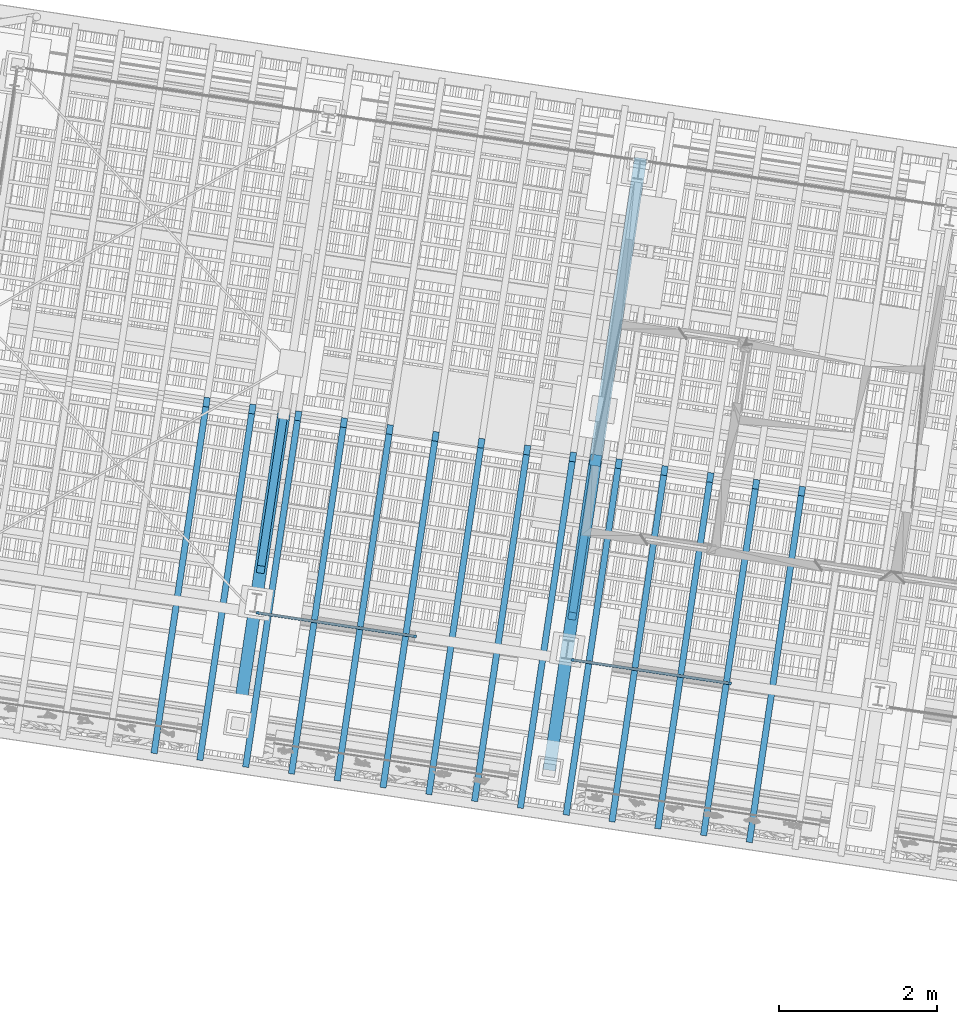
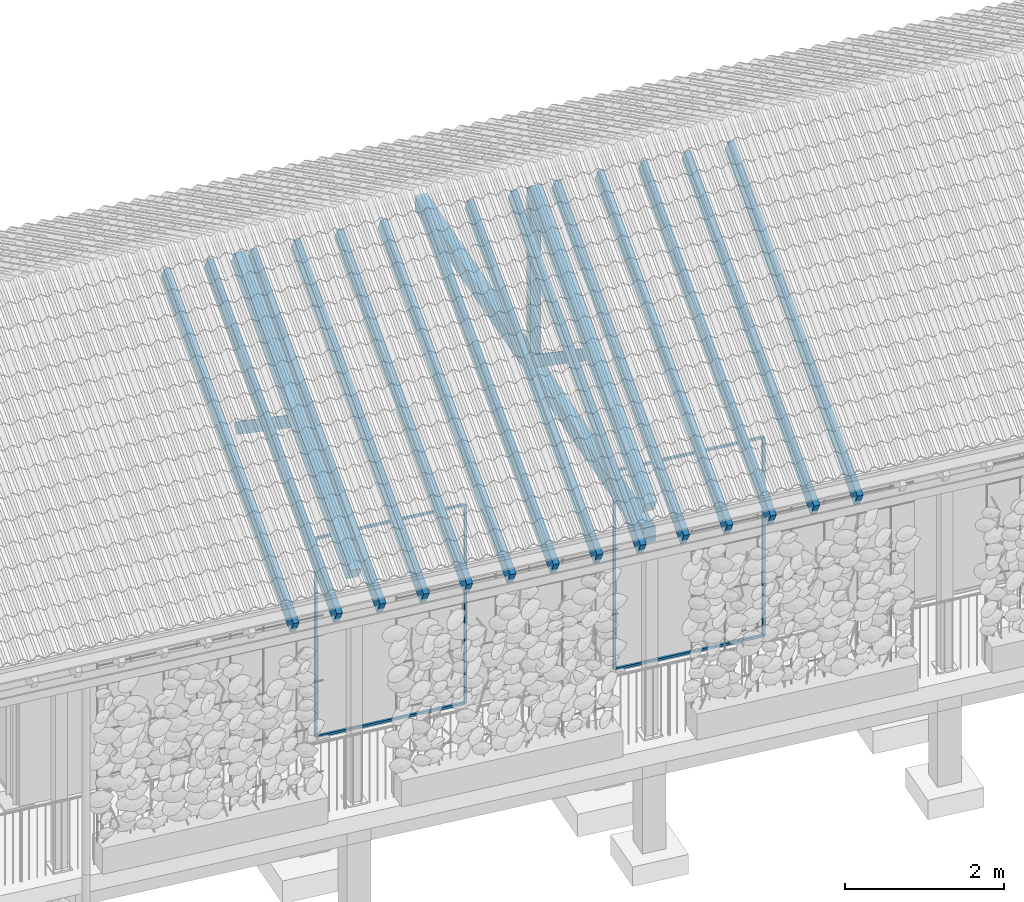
# One storey, part 58 of 131: 27 members, 1 beam, 1 element without a shape of its own.
"""IFC4 building model written with IfcOpenShell, lengths in metres."""

from ifc_helpers import new_model, si_unit, direction, frame, origin_with_axes, place, context, subcontext, project, spatial, rectangle, extrude, material, material_profile, profile_set, profile_usage, type_object, element, aggregate, save


model = new_model("IFC4")

# Units and contexts
model_context = context("Model", 3, precision=1e-05, world=origin_with_axes(), true_north=direction((0.0, 1.0)))
body_context = subcontext(model_context, "Body", "Model", "MODEL_VIEW")
ifc_project = project(units=[si_unit("AREAUNIT", "SQUARE_METRE"), si_unit("VOLUMEUNIT", "CUBIC_METRE"), si_unit("LENGTHUNIT", "METRE")], contexts=[model_context])

# Site, building, storey
site_placement = place(None, origin_with_axes())
site = spatial("IfcSite", under=ifc_project, at=site_placement, Name="Lares · Rua das Mercês · artigo 4771")
building_placement = place(site_placement, frame((15.0, 9.7, 14.65), z_axis=(0.0, 0.0, 1.0), x_axis=(0.989015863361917, -0.147809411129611, 0.0)))
building = spatial("IfcBuilding", under=site, at=building_placement, Name="Casa Sobreposta")
storey_placement = place(building_placement, origin_with_axes())
storey = spatial("IfcBuildingStorey", under=building, at=storey_placement, Name="00 · Habitação e estacionamento", Elevation=14.65)

# Members
ifc_material_1 = material(Name="Aço pintado / Stahl lackiert", Category="steel")
ifc_material_profile_1 = material_profile(ifc_material_1, rectangle(XDim=0.035, YDim=0.035))
ifc_profile_set_1 = profile_set([ifc_material_profile_1], Name="R0.035")
ifc_profile_usage_1 = profile_usage(ifc_profile_set_1)
member_type_1 = type_object("IfcMemberType", Name="R0.035 / steel", PredefinedType="NOTDEFINED", material=ifc_profile_set_1)
member_1_placement = place(storey_placement, frame((4.04266666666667, 0.0, 0.0), z_axis=(0.0, 0.0, 1.0), x_axis=(1.0, 0.0, 0.0)))
element("IfcMember", 1, at=member_1_placement, inside=storey, type_object=member_type_1, material=ifc_profile_usage_1, Name="Folha de correr sul 2 · montante", context=body_context, shape_type="SweptSolid", body=[
    extrude(rectangle(XDim=0.035, YDim=0.035), origin_with_axes(), (0.0, 0.0, 1.0), 3.05),
])
ifc_profile_usage_2 = profile_usage(ifc_profile_set_1)
member_2_placement = place(storey_placement, frame((6.064, 0.0, 0.0), z_axis=(0.0, 0.0, 1.0), x_axis=(1.0, 0.0, 0.0)))
element("IfcMember", 2, at=member_2_placement, inside=storey, type_object=member_type_1, material=ifc_profile_usage_2, Name="Folha de correr sul 2 · montante", context=body_context, shape_type="SweptSolid", body=[
    extrude(rectangle(XDim=0.035, YDim=0.035), origin_with_axes(), (0.0, 0.0, 1.0), 3.05),
])
ifc_profile_usage_3 = profile_usage(ifc_profile_set_1)
member_3_placement = place(storey_placement, frame((4.04266666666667, 0.0, 0.0), z_axis=(1.0, 0.0, 0.0), x_axis=(0.0, -1.0, 0.0)))
element("IfcMember", 3, at=member_3_placement, inside=storey, type_object=member_type_1, material=ifc_profile_usage_3, Name="Folha de correr sul 2 · travessa", context=body_context, shape_type="SweptSolid", body=[
    extrude(rectangle(XDim=0.035, YDim=0.035), origin_with_axes(), (0.0, 0.0, 1.0), 2.02133333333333),
])
ifc_profile_usage_4 = profile_usage(ifc_profile_set_1)
member_4_placement = place(storey_placement, frame((4.04266666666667, 0.0, 3.05), z_axis=(1.0, 0.0, 0.0), x_axis=(0.0, -1.0, 0.0)))
element("IfcMember", 4, at=member_4_placement, inside=storey, type_object=member_type_1, material=ifc_profile_usage_4, Name="Folha de correr sul 2 · travessa", context=body_context, shape_type="SweptSolid", body=[
    extrude(rectangle(XDim=0.035, YDim=0.035), origin_with_axes(), (0.0, 0.0, 1.0), 2.02133333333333),
])
ifc_profile_usage_5 = profile_usage(ifc_profile_set_1)
member_5_placement = place(storey_placement, frame((8.08533333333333, 0.0, 0.0), z_axis=(0.0, 0.0, 1.0), x_axis=(1.0, 0.0, 0.0)))
element("IfcMember", 5, at=member_5_placement, inside=storey, type_object=member_type_1, material=ifc_profile_usage_5, Name="Folha de correr sul 4 · montante", context=body_context, shape_type="SweptSolid", body=[
    extrude(rectangle(XDim=0.035, YDim=0.035), origin_with_axes(), (0.0, 0.0, 1.0), 3.05),
])
ifc_profile_usage_6 = profile_usage(ifc_profile_set_1)
member_6_placement = place(storey_placement, frame((10.1066666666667, 0.0, 0.0), z_axis=(0.0, 0.0, 1.0), x_axis=(1.0, 0.0, 0.0)))
element("IfcMember", 6, at=member_6_placement, inside=storey, type_object=member_type_1, material=ifc_profile_usage_6, Name="Folha de correr sul 4 · montante", context=body_context, shape_type="SweptSolid", body=[
    extrude(rectangle(XDim=0.035, YDim=0.035), origin_with_axes(), (0.0, 0.0, 1.0), 3.05),
])
ifc_profile_usage_7 = profile_usage(ifc_profile_set_1)
member_7_placement = place(storey_placement, frame((8.08533333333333, 0.0, 0.0), z_axis=(1.0, 0.0, 0.0), x_axis=(0.0, -1.0, 0.0)))
element("IfcMember", 7, at=member_7_placement, inside=storey, type_object=member_type_1, material=ifc_profile_usage_7, Name="Folha de correr sul 4 · travessa", context=body_context, shape_type="SweptSolid", body=[
    extrude(rectangle(XDim=0.035, YDim=0.035), origin_with_axes(), (0.0, 0.0, 1.0), 2.02133333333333),
])
ifc_profile_usage_8 = profile_usage(ifc_profile_set_1)
member_8_placement = place(storey_placement, frame((8.08533333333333, 0.0, 3.05), z_axis=(1.0, 0.0, 0.0), x_axis=(0.0, -1.0, 0.0)))
element("IfcMember", 8, at=member_8_placement, inside=storey, type_object=member_type_1, material=ifc_profile_usage_8, Name="Folha de correr sul 4 · travessa", context=body_context, shape_type="SweptSolid", body=[
    extrude(rectangle(XDim=0.035, YDim=0.035), origin_with_axes(), (0.0, 0.0, 1.0), 2.02133333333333),
])

# Roof, beam, members
ifc_material_2 = material(Name="Madeira / Bauholz", Category="wood")
roof_placement = place(storey_placement, origin_with_axes())
roof = element("IfcRoof", 9, at=roof_placement, inside=storey, material=ifc_material_2, Name="Cobertura de telha · duas águas 30 graus", PredefinedType="GABLE_ROOF")
ifc_material_profile_2 = material_profile(ifc_material_2, rectangle(XDim=0.16, YDim=0.24))
ifc_profile_set_2 = profile_set([ifc_material_profile_2], Name="TIMBER0.160x0.240")
ifc_profile_usage_9 = profile_usage(ifc_profile_set_2)
beam_type = type_object("IfcBeamType", Name="TIMBER0.160x0.240 / timber", PredefinedType="NOTDEFINED", material=ifc_profile_set_2)
beam_placement = place(roof_placement, frame((8.0, -1.43, 3.02), z_axis=(0.0, 1.0, 0.0), x_axis=(1.0, 0.0, 0.0)))
beam = element("IfcBeam", 10, at=beam_placement, type_object=beam_type, material=ifc_profile_usage_9, Name="Tesoura · tirante inferior", context=body_context, shape_type="SweptSolid", body=[
    extrude(rectangle(XDim=0.16, YDim=0.24), origin_with_axes(), (0.0, 0.0, 1.0), 7.86),
])
ifc_material_profile_3 = material_profile(ifc_material_2, rectangle(XDim=0.16, YDim=0.24))
ifc_profile_set_3 = profile_set([ifc_material_profile_3], Name="TIMBER0.160x0.240")
ifc_profile_usage_10 = profile_usage(ifc_profile_set_3)
member_type_2 = type_object("IfcMemberType", Name="TIMBER0.160x0.240 / timber", PredefinedType="NOTDEFINED", material=ifc_profile_set_3)
member_9_placement = place(roof_placement, frame((4.0, -1.43, 3.44635462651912), z_axis=(0.0, 0.866025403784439, 0.5), x_axis=(1.0, 0.0, 0.0)))
member_9 = element("IfcMember", 11, at=member_9_placement, type_object=member_type_2, material=ifc_profile_usage_10, Name="Tesoura · perna", context=body_context, shape_type="SweptSolid", body=[
    extrude(rectangle(XDim=0.16, YDim=0.24), origin_with_axes(), (0.0, 0.0, 1.0), 4.59570814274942),
])
ifc_profile_usage_11 = profile_usage(ifc_profile_set_3)
member_10_placement = place(roof_placement, frame((8.0, -1.43, 3.44635462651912), z_axis=(0.0, 0.866025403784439, 0.5), x_axis=(1.0, 0.0, 0.0)))
member_10 = element("IfcMember", 12, at=member_10_placement, type_object=member_type_2, material=ifc_profile_usage_11, Name="Tesoura · perna", context=body_context, shape_type="SweptSolid", body=[
    extrude(rectangle(XDim=0.16, YDim=0.24), origin_with_axes(), (0.0, 0.0, 1.0), 4.59570814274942),
])
ifc_material_profile_4 = material_profile(ifc_material_2, rectangle(XDim=0.14, YDim=0.14))
ifc_profile_set_4 = profile_set([ifc_material_profile_4], Name="TIMBER0.140x0.140")
ifc_profile_usage_12 = profile_usage(ifc_profile_set_4)
member_type_3 = type_object("IfcMemberType", Name="TIMBER0.140x0.140 / timber", PredefinedType="NOTDEFINED", material=ifc_profile_set_4)
member_11_placement = place(roof_placement, frame((8.0, 2.55, 3.02), z_axis=(0.0, 0.0, 1.0), x_axis=(1.0, 0.0, 0.0)))
member_11 = element("IfcMember", 13, at=member_11_placement, type_object=member_type_3, material=ifc_profile_usage_12, Name="Tesoura · pendural", context=body_context, shape_type="SweptSolid", body=[
    extrude(rectangle(XDim=0.14, YDim=0.14), origin_with_axes(), (0.0, 0.0, 1.0), 2.72420869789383),
])
ifc_material_profile_5 = material_profile(ifc_material_2, rectangle(XDim=0.1, YDim=0.16))
ifc_profile_set_5 = profile_set([ifc_material_profile_5], Name="TIMBER0.100x0.160")
ifc_profile_usage_13 = profile_usage(ifc_profile_set_5)
member_type_4 = type_object("IfcMemberType", Name="TIMBER0.100x0.160 / timber", PredefinedType="NOTDEFINED", material=ifc_profile_set_5)
member_12_placement = place(roof_placement, frame((4.0, 2.55, 3.1), z_axis=(0.0, -0.816439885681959, 0.577430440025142), x_axis=(-1.0, 0.0, 0.0)))
member_12 = element("IfcMember", 14, at=member_12_placement, type_object=member_type_4, material=ifc_profile_usage_13, Name="Tesoura · escora", context=body_context, shape_type="SweptSolid", body=[
    extrude(rectangle(XDim=0.1, YDim=0.16), origin_with_axes(), (0.0, 0.0, 1.0), 2.44965984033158),
])
ifc_profile_usage_14 = profile_usage(ifc_profile_set_5)
member_13_placement = place(roof_placement, frame((8.0, 2.55, 3.1), z_axis=(0.0, -0.816439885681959, 0.577430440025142), x_axis=(-1.0, 0.0, 0.0)))
member_13 = element("IfcMember", 15, at=member_13_placement, type_object=member_type_4, material=ifc_profile_usage_14, Name="Tesoura · escora", context=body_context, shape_type="SweptSolid", body=[
    extrude(rectangle(XDim=0.1, YDim=0.16), origin_with_axes(), (0.0, 0.0, 1.0), 2.44965984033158),
])
ifc_material_profile_6 = material_profile(ifc_material_2, rectangle(XDim=0.08, YDim=0.24))
ifc_profile_set_6 = profile_set([ifc_material_profile_6], Name="TIMBER0.080x0.240")
ifc_profile_usage_15 = profile_usage(ifc_profile_set_6)
member_type_5 = type_object("IfcMemberType", Name="TIMBER0.080x0.240 / timber", PredefinedType="NOTDEFINED", material=ifc_profile_set_6)
member_14_placement = place(roof_placement, frame((3.00606060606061, -1.9, 3.181), z_axis=(0.0, 0.866025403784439, 0.5), x_axis=(1.0, 0.0, 0.0)))
member_14 = element("IfcMember", 16, at=member_14_placement, type_object=member_type_5, material=ifc_profile_usage_15, Name="Cobertura · caibro", context=body_context, shape_type="SweptSolid", body=[
    extrude(rectangle(XDim=0.08, YDim=0.24), origin_with_axes(), (0.0, 0.0, 1.0), 5.13841739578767),
])
ifc_profile_usage_16 = profile_usage(ifc_profile_set_6)
member_15_placement = place(roof_placement, frame((3.59393939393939, -1.9, 3.181), z_axis=(0.0, 0.866025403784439, 0.5), x_axis=(1.0, 0.0, 0.0)))
member_15 = element("IfcMember", 17, at=member_15_placement, type_object=member_type_5, material=ifc_profile_usage_16, Name="Cobertura · caibro", context=body_context, shape_type="SweptSolid", body=[
    extrude(rectangle(XDim=0.08, YDim=0.24), origin_with_axes(), (0.0, 0.0, 1.0), 5.13841739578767),
])
ifc_profile_usage_17 = profile_usage(ifc_profile_set_6)
member_16_placement = place(roof_placement, frame((4.18181818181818, -1.9, 3.181), z_axis=(0.0, 0.866025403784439, 0.5), x_axis=(1.0, 0.0, 0.0)))
member_16 = element("IfcMember", 18, at=member_16_placement, type_object=member_type_5, material=ifc_profile_usage_17, Name="Cobertura · caibro", context=body_context, shape_type="SweptSolid", body=[
    extrude(rectangle(XDim=0.08, YDim=0.24), origin_with_axes(), (0.0, 0.0, 1.0), 5.13841739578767),
])
ifc_profile_usage_18 = profile_usage(ifc_profile_set_6)
member_17_placement = place(roof_placement, frame((4.76969696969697, -1.9, 3.181), z_axis=(0.0, 0.866025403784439, 0.5), x_axis=(1.0, 0.0, 0.0)))
member_17 = element("IfcMember", 19, at=member_17_placement, type_object=member_type_5, material=ifc_profile_usage_18, Name="Cobertura · caibro", context=body_context, shape_type="SweptSolid", body=[
    extrude(rectangle(XDim=0.08, YDim=0.24), origin_with_axes(), (0.0, 0.0, 1.0), 5.13841739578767),
])
ifc_profile_usage_19 = profile_usage(ifc_profile_set_6)
member_18_placement = place(roof_placement, frame((5.35757575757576, -1.9, 3.181), z_axis=(0.0, 0.866025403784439, 0.5), x_axis=(1.0, 0.0, 0.0)))
member_18 = element("IfcMember", 20, at=member_18_placement, type_object=member_type_5, material=ifc_profile_usage_19, Name="Cobertura · caibro", context=body_context, shape_type="SweptSolid", body=[
    extrude(rectangle(XDim=0.08, YDim=0.24), origin_with_axes(), (0.0, 0.0, 1.0), 5.13841739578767),
])
ifc_profile_usage_20 = profile_usage(ifc_profile_set_6)
member_19_placement = place(roof_placement, frame((5.94545454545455, -1.9, 3.181), z_axis=(0.0, 0.866025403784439, 0.5), x_axis=(1.0, 0.0, 0.0)))
member_19 = element("IfcMember", 21, at=member_19_placement, type_object=member_type_5, material=ifc_profile_usage_20, Name="Cobertura · caibro", context=body_context, shape_type="SweptSolid", body=[
    extrude(rectangle(XDim=0.08, YDim=0.24), origin_with_axes(), (0.0, 0.0, 1.0), 5.13841739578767),
])
ifc_profile_usage_21 = profile_usage(ifc_profile_set_6)
member_20_placement = place(roof_placement, frame((6.53333333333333, -1.9, 3.181), z_axis=(0.0, 0.866025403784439, 0.5), x_axis=(1.0, 0.0, 0.0)))
member_20 = element("IfcMember", 22, at=member_20_placement, type_object=member_type_5, material=ifc_profile_usage_21, Name="Cobertura · caibro", context=body_context, shape_type="SweptSolid", body=[
    extrude(rectangle(XDim=0.08, YDim=0.24), origin_with_axes(), (0.0, 0.0, 1.0), 5.13841739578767),
])
ifc_profile_usage_22 = profile_usage(ifc_profile_set_6)
member_21_placement = place(roof_placement, frame((7.12121212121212, -1.9, 3.181), z_axis=(0.0, 0.866025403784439, 0.5), x_axis=(1.0, 0.0, 0.0)))
member_21 = element("IfcMember", 23, at=member_21_placement, type_object=member_type_5, material=ifc_profile_usage_22, Name="Cobertura · caibro", context=body_context, shape_type="SweptSolid", body=[
    extrude(rectangle(XDim=0.08, YDim=0.24), origin_with_axes(), (0.0, 0.0, 1.0), 5.13841739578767),
])
ifc_profile_usage_23 = profile_usage(ifc_profile_set_6)
member_22_placement = place(roof_placement, frame((7.70909090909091, -1.9, 3.181), z_axis=(0.0, 0.866025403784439, 0.5), x_axis=(1.0, 0.0, 0.0)))
member_22 = element("IfcMember", 24, at=member_22_placement, type_object=member_type_5, material=ifc_profile_usage_23, Name="Cobertura · caibro", context=body_context, shape_type="SweptSolid", body=[
    extrude(rectangle(XDim=0.08, YDim=0.24), origin_with_axes(), (0.0, 0.0, 1.0), 5.13841739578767),
])
ifc_profile_usage_24 = profile_usage(ifc_profile_set_6)
member_23_placement = place(roof_placement, frame((8.2969696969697, -1.9, 3.181), z_axis=(0.0, 0.866025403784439, 0.5), x_axis=(1.0, 0.0, 0.0)))
member_23 = element("IfcMember", 25, at=member_23_placement, type_object=member_type_5, material=ifc_profile_usage_24, Name="Cobertura · caibro", context=body_context, shape_type="SweptSolid", body=[
    extrude(rectangle(XDim=0.08, YDim=0.24), origin_with_axes(), (0.0, 0.0, 1.0), 5.13841739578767),
])
ifc_profile_usage_25 = profile_usage(ifc_profile_set_6)
member_24_placement = place(roof_placement, frame((8.88484848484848, -1.9, 3.181), z_axis=(0.0, 0.866025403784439, 0.5), x_axis=(1.0, 0.0, 0.0)))
member_24 = element("IfcMember", 26, at=member_24_placement, type_object=member_type_5, material=ifc_profile_usage_25, Name="Cobertura · caibro", context=body_context, shape_type="SweptSolid", body=[
    extrude(rectangle(XDim=0.08, YDim=0.24), origin_with_axes(), (0.0, 0.0, 1.0), 5.13841739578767),
])
ifc_profile_usage_26 = profile_usage(ifc_profile_set_6)
member_25_placement = place(roof_placement, frame((9.47272727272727, -1.9, 3.181), z_axis=(0.0, 0.866025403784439, 0.5), x_axis=(1.0, 0.0, 0.0)))
member_25 = element("IfcMember", 27, at=member_25_placement, type_object=member_type_5, material=ifc_profile_usage_26, Name="Cobertura · caibro", context=body_context, shape_type="SweptSolid", body=[
    extrude(rectangle(XDim=0.08, YDim=0.24), origin_with_axes(), (0.0, 0.0, 1.0), 5.13841739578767),
])
ifc_profile_usage_27 = profile_usage(ifc_profile_set_6)
member_26_placement = place(roof_placement, frame((10.0606060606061, -1.9, 3.181), z_axis=(0.0, 0.866025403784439, 0.5), x_axis=(1.0, 0.0, 0.0)))
member_26 = element("IfcMember", 28, at=member_26_placement, type_object=member_type_5, material=ifc_profile_usage_27, Name="Cobertura · caibro", context=body_context, shape_type="SweptSolid", body=[
    extrude(rectangle(XDim=0.08, YDim=0.24), origin_with_axes(), (0.0, 0.0, 1.0), 5.13841739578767),
])
ifc_profile_usage_28 = profile_usage(ifc_profile_set_6)
member_27_placement = place(roof_placement, frame((10.6484848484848, -1.9, 3.181), z_axis=(0.0, 0.866025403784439, 0.5), x_axis=(1.0, 0.0, 0.0)))
member_27 = element("IfcMember", 29, at=member_27_placement, type_object=member_type_5, material=ifc_profile_usage_28, Name="Cobertura · caibro", context=body_context, shape_type="SweptSolid", body=[
    extrude(rectangle(XDim=0.08, YDim=0.24), origin_with_axes(), (0.0, 0.0, 1.0), 5.13841739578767),
])
aggregate(roof, [member_9, member_12, beam, member_10, member_11, member_13, member_14, member_15, member_16, member_17, member_18, member_19, member_20, member_21, member_22, member_23, member_24, member_25, member_26, member_27])

save(model, "model.ifc")
